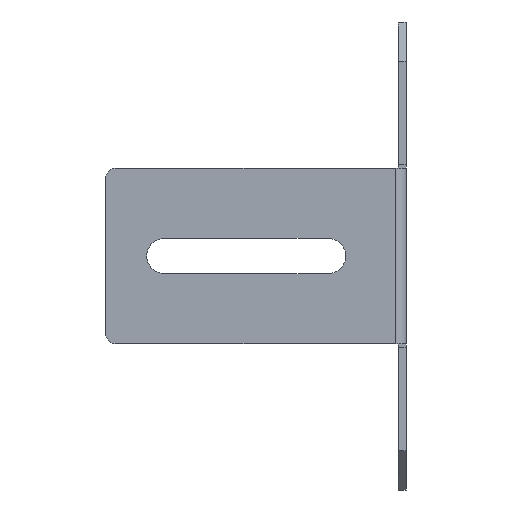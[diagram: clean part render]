
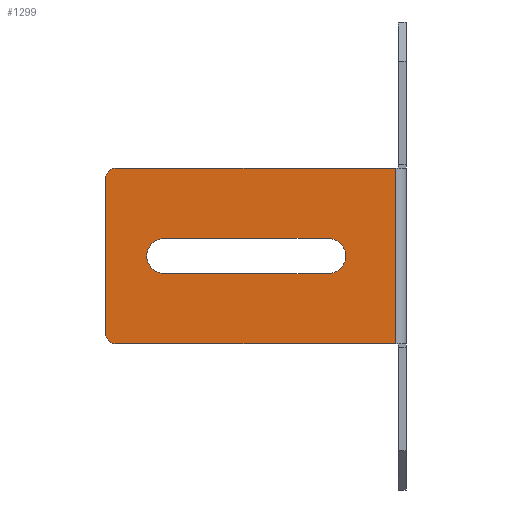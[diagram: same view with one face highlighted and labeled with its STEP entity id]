
A CAD part, left-side view. The second image highlights one B-rep face of the part: STEP entity #1299.
In plain terms, the highlighted planar face has unit normal (-1, 0, 0).
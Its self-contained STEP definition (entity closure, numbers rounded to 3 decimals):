
#7 = ORIENTED_EDGE ( 'NONE', *, *, #1531, .T. ) ;
#95 = EDGE_LOOP ( 'NONE', ( #1990, #7, #255, #1745, #1393 ) ) ;
#145 = VERTEX_POINT ( 'NONE', #1174 ) ;
#159 = CARTESIAN_POINT ( 'NONE',  ( -32.237, 18., -4.5 ) ) ;
#170 = VERTEX_POINT ( 'NONE', #504 ) ;
#180 = VECTOR ( 'NONE', #1247, 1000. ) ;
#208 = CARTESIAN_POINT ( 'NONE',  ( -32.237, 72.5, -22.5 ) ) ;
#212 = DIRECTION ( 'NONE',  ( 0., 0., -1. ) ) ;
#255 = ORIENTED_EDGE ( 'NONE', *, *, #2048, .T. ) ;
#282 = DIRECTION ( 'NONE',  ( -1., 0., 0. ) ) ;
#311 = DIRECTION ( 'NONE',  ( 0., 1., 0. ) ) ;
#312 = CARTESIAN_POINT ( 'NONE',  ( -32.237, 0., -22.5 ) ) ;
#313 = EDGE_CURVE ( 'NONE', #679, #1734, #478, .T. ) ;
#354 = DIRECTION ( 'NONE',  ( 0., 1., 0. ) ) ;
#361 = DIRECTION ( 'NONE',  ( 0., 1., 0. ) ) ;
#368 = CARTESIAN_POINT ( 'NONE',  ( -32.237, 0., 0. ) ) ;
#436 = VERTEX_POINT ( 'NONE', #2121 ) ;
#478 = CIRCLE ( 'NONE', #1331, 2.5 ) ;
#483 = VECTOR ( 'NONE', #1792, 1000. ) ;
#487 = VECTOR ( 'NONE', #590, 1000. ) ;
#491 = CARTESIAN_POINT ( 'NONE',  ( -32.237, 60., 0. ) ) ;
#504 = CARTESIAN_POINT ( 'NONE',  ( -32.237, 75., 20. ) ) ;
#506 = DIRECTION ( 'NONE',  ( -1., 0., 0. ) ) ;
#512 = EDGE_CURVE ( 'NONE', #1030, #906, #747, .T. ) ;
#514 = CARTESIAN_POINT ( 'NONE',  ( -32.237, 18., 0. ) ) ;
#561 = EDGE_CURVE ( 'NONE', #145, #170, #1275, .T. ) ;
#566 = ORIENTED_EDGE ( 'NONE', *, *, #736, .T. ) ;
#590 = DIRECTION ( 'NONE',  ( 0., 1., 0. ) ) ;
#595 = VECTOR ( 'NONE', #1503, 1000. ) ;
#608 = VERTEX_POINT ( 'NONE', #1829 ) ;
#679 = VERTEX_POINT ( 'NONE', #1483 ) ;
#694 = AXIS2_PLACEMENT_3D ( 'NONE', #1214, #1893, #361 ) ;
#706 = AXIS2_PLACEMENT_3D ( 'NONE', #1568, #282, #1977 ) ;
#733 = PLANE ( 'NONE',  #1066 ) ;
#736 = EDGE_CURVE ( 'NONE', #1734, #785, #1337, .T. ) ;
#747 = LINE ( 'NONE', #1752, #487 ) ;
#750 = CARTESIAN_POINT ( 'NONE',  ( -32.237, 0., 22.5 ) ) ;
#785 = VERTEX_POINT ( 'NONE', #1926 ) ;
#806 = CIRCLE ( 'NONE', #2053, 4.5 ) ;
#846 = VERTEX_POINT ( 'NONE', #1079 ) ;
#863 = CARTESIAN_POINT ( 'NONE',  ( -32.237, 60., -4.5 ) ) ;
#903 = LINE ( 'NONE', #1573, #180 ) ;
#906 = VERTEX_POINT ( 'NONE', #863 ) ;
#914 = LINE ( 'NONE', #750, #1582 ) ;
#984 = AXIS2_PLACEMENT_3D ( 'NONE', #514, #1882, #354 ) ;
#1026 = CIRCLE ( 'NONE', #984, 4.5 ) ;
#1030 = VERTEX_POINT ( 'NONE', #159 ) ;
#1066 = AXIS2_PLACEMENT_3D ( 'NONE', #368, #1242, #1722 ) ;
#1079 = CARTESIAN_POINT ( 'NONE',  ( -32.237, 64.5, 0. ) ) ;
#1100 = CARTESIAN_POINT ( 'NONE',  ( -32.237, 75., 0. ) ) ;
#1131 = VECTOR ( 'NONE', #212, 1000. ) ;
#1134 = EDGE_CURVE ( 'NONE', #608, #1030, #1026, .T. ) ;
#1171 = DIRECTION ( 'NONE',  ( 1., 0., 0. ) ) ;
#1173 = EDGE_CURVE ( 'NONE', #436, #608, #903, .T. ) ;
#1174 = CARTESIAN_POINT ( 'NONE',  ( -32.237, 72.5, 22.5 ) ) ;
#1179 = ORIENTED_EDGE ( 'NONE', *, *, #2172, .T. ) ;
#1214 = CARTESIAN_POINT ( 'NONE',  ( -32.237, 60., 0. ) ) ;
#1242 = DIRECTION ( 'NONE',  ( 1., 0., 0. ) ) ;
#1247 = DIRECTION ( 'NONE',  ( 0., -1., 0. ) ) ;
#1274 = ORIENTED_EDGE ( 'NONE', *, *, #1440, .T. ) ;
#1275 = CIRCLE ( 'NONE', #706, 2.5 ) ;
#1299 = ADVANCED_FACE ( 'NONE', ( #2064, #1751 ), #733, .F. ) ;
#1314 = EDGE_CURVE ( 'NONE', #2034, #785, #1935, .T. ) ;
#1331 = AXIS2_PLACEMENT_3D ( 'NONE', #2018, #506, #1902 ) ;
#1337 = LINE ( 'NONE', #312, #595 ) ;
#1381 = CARTESIAN_POINT ( 'NONE',  ( -32.237, 0.737, 22.5 ) ) ;
#1393 = ORIENTED_EDGE ( 'NONE', *, *, #1134, .T. ) ;
#1431 = DIRECTION ( 'NONE',  ( 0., 1., 0. ) ) ;
#1437 = ORIENTED_EDGE ( 'NONE', *, *, #313, .T. ) ;
#1440 = EDGE_CURVE ( 'NONE', #170, #679, #1984, .T. ) ;
#1483 = CARTESIAN_POINT ( 'NONE',  ( -32.237, 75., -20. ) ) ;
#1503 = DIRECTION ( 'NONE',  ( 0., -1., 0. ) ) ;
#1531 = EDGE_CURVE ( 'NONE', #906, #846, #806, .T. ) ;
#1568 = CARTESIAN_POINT ( 'NONE',  ( -32.237, 72.5, 20. ) ) ;
#1573 = CARTESIAN_POINT ( 'NONE',  ( -32.237, 0., 4.5 ) ) ;
#1582 = VECTOR ( 'NONE', #1431, 1000. ) ;
#1649 = CIRCLE ( 'NONE', #694, 4.5 ) ;
#1722 = DIRECTION ( 'NONE',  ( 0., 1., 0. ) ) ;
#1734 = VERTEX_POINT ( 'NONE', #208 ) ;
#1745 = ORIENTED_EDGE ( 'NONE', *, *, #1173, .T. ) ;
#1751 = FACE_OUTER_BOUND ( 'NONE', #2074, .T. ) ;
#1752 = CARTESIAN_POINT ( 'NONE',  ( -32.237, 0., -4.5 ) ) ;
#1792 = DIRECTION ( 'NONE',  ( 0., 0., -1. ) ) ;
#1829 = CARTESIAN_POINT ( 'NONE',  ( -32.237, 18., 4.5 ) ) ;
#1882 = DIRECTION ( 'NONE',  ( 1., 0., 0. ) ) ;
#1893 = DIRECTION ( 'NONE',  ( 1., 0., 0. ) ) ;
#1902 = DIRECTION ( 'NONE',  ( 0., 1., 0. ) ) ;
#1913 = CARTESIAN_POINT ( 'NONE',  ( -32.237, 0.737, -22.5 ) ) ;
#1926 = CARTESIAN_POINT ( 'NONE',  ( -32.237, 0.737, -22.5 ) ) ;
#1935 = LINE ( 'NONE', #1913, #1131 ) ;
#1970 = ORIENTED_EDGE ( 'NONE', *, *, #561, .T. ) ;
#1977 = DIRECTION ( 'NONE',  ( 0., 1., 0. ) ) ;
#1984 = LINE ( 'NONE', #1100, #483 ) ;
#1990 = ORIENTED_EDGE ( 'NONE', *, *, #512, .T. ) ;
#2018 = CARTESIAN_POINT ( 'NONE',  ( -32.237, 72.5, -20. ) ) ;
#2034 = VERTEX_POINT ( 'NONE', #1381 ) ;
#2048 = EDGE_CURVE ( 'NONE', #846, #436, #1649, .T. ) ;
#2053 = AXIS2_PLACEMENT_3D ( 'NONE', #491, #1171, #311 ) ;
#2064 = FACE_BOUND ( 'NONE', #95, .T. ) ;
#2074 = EDGE_LOOP ( 'NONE', ( #1274, #1437, #566, #2153, #1179, #1970 ) ) ;
#2121 = CARTESIAN_POINT ( 'NONE',  ( -32.237, 60., 4.5 ) ) ;
#2153 = ORIENTED_EDGE ( 'NONE', *, *, #1314, .F. ) ;
#2172 = EDGE_CURVE ( 'NONE', #2034, #145, #914, .T. ) ;
